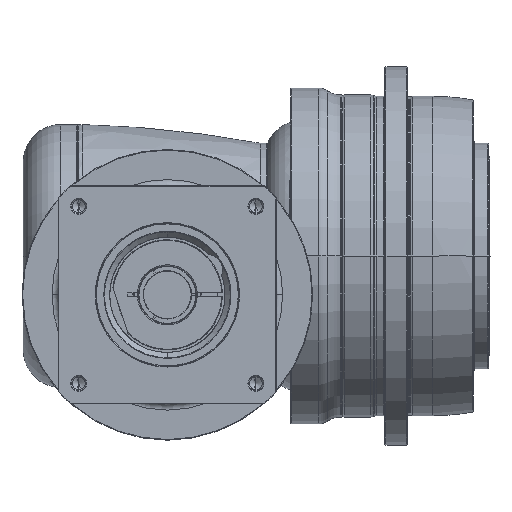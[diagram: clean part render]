
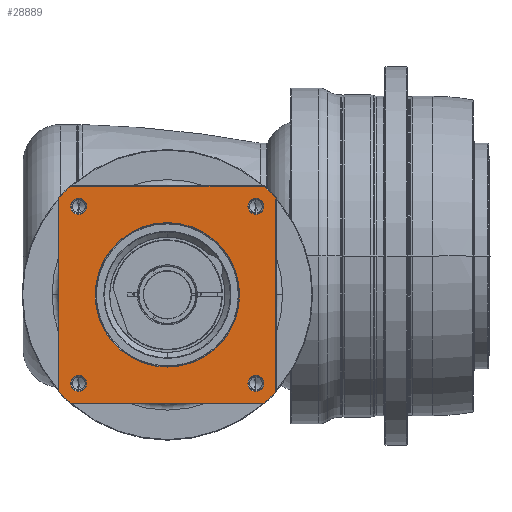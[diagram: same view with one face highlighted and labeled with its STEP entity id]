
A CAD part, front view. The second image highlights one B-rep face of the part: STEP entity #28889.
In plain terms, the highlighted planar face has unit normal (0, -1, 0) as drawn and (0, 0, 1) by its records, which use the part's own axes.
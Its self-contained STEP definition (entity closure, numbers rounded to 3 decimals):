
#27640=CARTESIAN_POINT('',(0.,0.,
76.));
#27641=DIRECTION('',(0.,0.,-1.));
#27642=DIRECTION('',(0.,-1.,0.));
#27643=AXIS2_PLACEMENT_3D('',#27640,#27641,#27642);
#27645=CARTESIAN_POINT('',(0.,0.,
76.));
#27646=DIRECTION('',(0.,0.,-1.));
#27647=DIRECTION('',(0.,1.,0.));
#27648=AXIS2_PLACEMENT_3D('',#27645,#27646,#27647);
#27650=CARTESIAN_POINT('',(0.,0.,76.));
#27651=DIRECTION('',(0.,0.,1.));
#27652=DIRECTION('',(-0.746,-0.666,0.));
#27653=AXIS2_PLACEMENT_3D('',#27650,#27651,#27652);
#27665=DIRECTION('',(1.,0.,0.));
#27666=VECTOR('',#27665,154.58);
#27667=CARTESIAN_POINT('',(-77.29,-86.5,76.));
#27668=LINE('',#27667,#27666);
#27678=CARTESIAN_POINT('',(0.,0.,76.));
#27679=DIRECTION('',(0.,0.,1.));
#27680=DIRECTION('',(0.666,-0.746,0.));
#27681=AXIS2_PLACEMENT_3D('',#27678,#27679,#27680);
#27693=DIRECTION('',(0.,1.,0.));
#27694=VECTOR('',#27693,154.58);
#27695=CARTESIAN_POINT('',(86.5,-77.29,76.));
#27696=LINE('',#27695,#27694);
#27706=CARTESIAN_POINT('',(0.,0.,76.));
#27707=DIRECTION('',(0.,0.,1.));
#27708=DIRECTION('',(0.746,0.666,0.));
#27709=AXIS2_PLACEMENT_3D('',#27706,#27707,#27708);
#27721=DIRECTION('',(-1.,0.,0.));
#27722=VECTOR('',#27721,154.58);
#27723=CARTESIAN_POINT('',(77.29,86.5,76.));
#27724=LINE('',#27723,#27722);
#27729=CARTESIAN_POINT('',(0.,0.,76.));
#27730=DIRECTION('',(0.,0.,1.));
#27731=DIRECTION('',(-0.666,0.746,0.));
#27732=AXIS2_PLACEMENT_3D('',#27729,#27730,#27731);
#27749=DIRECTION('',(0.,-1.,0.));
#27750=VECTOR('',#27749,154.58);
#27751=CARTESIAN_POINT('',(-86.5,77.29,76.));
#27752=LINE('',#27751,#27750);
#27835=CARTESIAN_POINT('',(-70.711,70.711,76.));
#27836=DIRECTION('',(0.,0.,1.));
#27837=DIRECTION('',(-1.,0.,0.));
#27838=AXIS2_PLACEMENT_3D('',#27835,#27836,#27837);
#27853=CARTESIAN_POINT('',(-70.711,70.711,76.));
#27854=DIRECTION('',(0.,0.,1.));
#27855=DIRECTION('',(1.,0.,0.));
#27856=AXIS2_PLACEMENT_3D('',#27853,#27854,#27855);
#27889=CARTESIAN_POINT('',(70.711,70.711,76.));
#27890=DIRECTION('',(0.,0.,1.));
#27891=DIRECTION('',(-1.,0.,0.));
#27892=AXIS2_PLACEMENT_3D('',#27889,#27890,#27891);
#27907=CARTESIAN_POINT('',(70.711,70.711,76.));
#27908=DIRECTION('',(0.,0.,1.));
#27909=DIRECTION('',(1.,0.,0.));
#27910=AXIS2_PLACEMENT_3D('',#27907,#27908,#27909);
#27943=CARTESIAN_POINT('',(70.711,-70.711,76.));
#27944=DIRECTION('',(0.,0.,1.));
#27945=DIRECTION('',(-1.,0.,0.));
#27946=AXIS2_PLACEMENT_3D('',#27943,#27944,#27945);
#27961=CARTESIAN_POINT('',(70.711,-70.711,76.));
#27962=DIRECTION('',(0.,0.,1.));
#27963=DIRECTION('',(1.,0.,0.));
#27964=AXIS2_PLACEMENT_3D('',#27961,#27962,#27963);
#27997=CARTESIAN_POINT('',(-70.711,-70.711,76.));
#27998=DIRECTION('',(0.,0.,1.));
#27999=DIRECTION('',(-1.,0.,0.));
#28000=AXIS2_PLACEMENT_3D('',#27997,#27998,#27999);
#28015=CARTESIAN_POINT('',(-70.711,-70.711,76.));
#28016=DIRECTION('',(0.,0.,1.));
#28017=DIRECTION('',(1.,0.,0.));
#28018=AXIS2_PLACEMENT_3D('',#28015,#28016,#28017);
#28147=CARTESIAN_POINT('',(86.5,-77.29,76.));
#28148=CARTESIAN_POINT('',(86.5,77.29,76.));
#28149=VERTEX_POINT('',#28147);
#28150=VERTEX_POINT('',#28148);
#28155=CARTESIAN_POINT('',(77.29,-86.5,76.));
#28156=VERTEX_POINT('',#28155);
#28159=CARTESIAN_POINT('',(-77.29,-86.5,76.));
#28160=VERTEX_POINT('',#28159);
#28163=CARTESIAN_POINT('',(-86.5,-77.29,76.));
#28164=VERTEX_POINT('',#28163);
#28167=CARTESIAN_POINT('',(-86.5,77.29,76.));
#28168=VERTEX_POINT('',#28167);
#28171=CARTESIAN_POINT('',(-77.29,86.5,76.));
#28172=VERTEX_POINT('',#28171);
#28175=CARTESIAN_POINT('',(77.29,86.5,76.));
#28176=VERTEX_POINT('',#28175);
#28185=CARTESIAN_POINT('',(-77.111,70.711,76.));
#28186=CARTESIAN_POINT('',(-64.311,70.711,76.));
#28187=VERTEX_POINT('',#28185);
#28188=VERTEX_POINT('',#28186);
#28211=CARTESIAN_POINT('',(77.111,70.711,76.));
#28212=CARTESIAN_POINT('',(64.311,70.711,76.));
#28213=VERTEX_POINT('',#28211);
#28214=VERTEX_POINT('',#28212);
#28219=CARTESIAN_POINT('',(77.111,-70.711,76.));
#28220=CARTESIAN_POINT('',(64.311,-70.711,76.));
#28221=VERTEX_POINT('',#28219);
#28222=VERTEX_POINT('',#28220);
#28227=CARTESIAN_POINT('',(-64.311,-70.711,76.));
#28228=CARTESIAN_POINT('',(-77.111,-70.711,76.));
#28229=VERTEX_POINT('',#28227);
#28230=VERTEX_POINT('',#28228);
#28235=CARTESIAN_POINT('',(0.,-57.65,76.));
#28236=CARTESIAN_POINT('',(0.,57.65,76.));
#28237=VERTEX_POINT('',#28235);
#28238=VERTEX_POINT('',#28236);
#28837=CARTESIAN_POINT('',(0.,0.,76.));
#28838=DIRECTION('',(0.,0.,1.));
#28839=DIRECTION('',(1.,0.,0.));
#28840=AXIS2_PLACEMENT_3D('',#28837,#28838,#28839);
#28841=PLANE('',#28840);
#28843=ORIENTED_EDGE('',*,*,#28842,.F.);
#28845=ORIENTED_EDGE('',*,*,#28844,.F.);
#28847=ORIENTED_EDGE('',*,*,#28846,.F.);
#28849=ORIENTED_EDGE('',*,*,#28848,.F.);
#28851=ORIENTED_EDGE('',*,*,#28850,.F.);
#28853=ORIENTED_EDGE('',*,*,#28852,.F.);
#28855=ORIENTED_EDGE('',*,*,#28854,.F.);
#28857=ORIENTED_EDGE('',*,*,#28856,.F.);
#28858=EDGE_LOOP('',(#28843,#28845,#28847,#28849,#28851,#28853,#28855,#28857));
#28859=FACE_OUTER_BOUND('',#28858,.F.);
#28860=ORIENTED_EDGE('',*,*,#28827,.F.);
#28862=ORIENTED_EDGE('',*,*,#28861,.F.);
#28863=EDGE_LOOP('',(#28860,#28862));
#28864=FACE_BOUND('',#28863,.F.);
#28866=ORIENTED_EDGE('',*,*,#28865,.T.);
#28868=ORIENTED_EDGE('',*,*,#28867,.T.);
#28869=EDGE_LOOP('',(#28866,#28868));
#28870=FACE_BOUND('',#28869,.F.);
#28872=ORIENTED_EDGE('',*,*,#28871,.T.);
#28874=ORIENTED_EDGE('',*,*,#28873,.T.);
#28875=EDGE_LOOP('',(#28872,#28874));
#28876=FACE_BOUND('',#28875,.F.);
#28878=ORIENTED_EDGE('',*,*,#28877,.T.);
#28880=ORIENTED_EDGE('',*,*,#28879,.T.);
#28881=EDGE_LOOP('',(#28878,#28880));
#28882=FACE_BOUND('',#28881,.F.);
#28884=ORIENTED_EDGE('',*,*,#28883,.T.);
#28886=ORIENTED_EDGE('',*,*,#28885,.T.);
#28887=EDGE_LOOP('',(#28884,#28886));
#28888=FACE_BOUND('',#28887,.F.);
#28889=ADVANCED_FACE('',(#28859,#28864,#28870,#28876,#28882,#28888),#28841,.T.);
#27644=CIRCLE('',#27643,57.65);
#27649=CIRCLE('',#27648,57.65);
#27654=CIRCLE('',#27653,116.);
#27682=CIRCLE('',#27681,116.);
#27710=CIRCLE('',#27709,116.);
#27733=CIRCLE('',#27732,116.);
#27839=CIRCLE('',#27838,6.4);
#27857=CIRCLE('',#27856,6.4);
#27893=CIRCLE('',#27892,6.4);
#27911=CIRCLE('',#27910,6.4);
#27947=CIRCLE('',#27946,6.4);
#27965=CIRCLE('',#27964,6.4);
#28001=CIRCLE('',#28000,6.4);
#28019=CIRCLE('',#28018,6.4);
#28827=EDGE_CURVE('',#28237,#28238,#27644,.T.);
#28842=EDGE_CURVE('',#28164,#28160,#27654,.T.);
#28844=EDGE_CURVE('',#28168,#28164,#27752,.T.);
#28846=EDGE_CURVE('',#28172,#28168,#27733,.T.);
#28848=EDGE_CURVE('',#28176,#28172,#27724,.T.);
#28850=EDGE_CURVE('',#28150,#28176,#27710,.T.);
#28852=EDGE_CURVE('',#28149,#28150,#27696,.T.);
#28854=EDGE_CURVE('',#28156,#28149,#27682,.T.);
#28856=EDGE_CURVE('',#28160,#28156,#27668,.T.);
#28861=EDGE_CURVE('',#28238,#28237,#27649,.T.);
#28865=EDGE_CURVE('',#28187,#28188,#27839,.T.);
#28867=EDGE_CURVE('',#28188,#28187,#27857,.T.);
#28871=EDGE_CURVE('',#28214,#28213,#27893,.T.);
#28873=EDGE_CURVE('',#28213,#28214,#27911,.T.);
#28877=EDGE_CURVE('',#28222,#28221,#27947,.T.);
#28879=EDGE_CURVE('',#28221,#28222,#27965,.T.);
#28883=EDGE_CURVE('',#28230,#28229,#28001,.T.);
#28885=EDGE_CURVE('',#28229,#28230,#28019,.T.);
